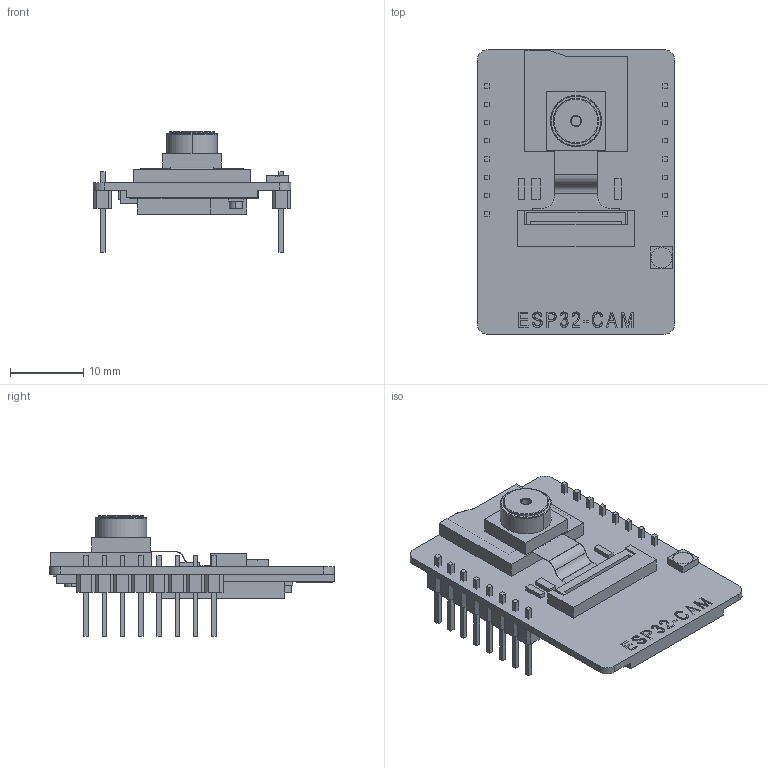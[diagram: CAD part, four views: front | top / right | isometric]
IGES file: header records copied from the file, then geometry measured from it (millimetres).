
Start section: START RECORD GO HERE.
Global section: file name: ESP32-CAM.igs; native system: IBM CATIA IGES - CATIA Version 5 Release 19 ; preprocessor: CATIA Version 5 Release 19 ; author: admin; organization: M0815; date: 20241121.174028; units: millimetre
Bounding box: 27 x 39 x 16.5 mm (x, y, z)
Surface area: 4584.4 mm2 (no closed solid volume)
Topology: 0 solids, 0 shells, 685 faces, 3432 edges, 3432 vertices
Faces by surface type: plane 600, bspline 51, revolution 34
